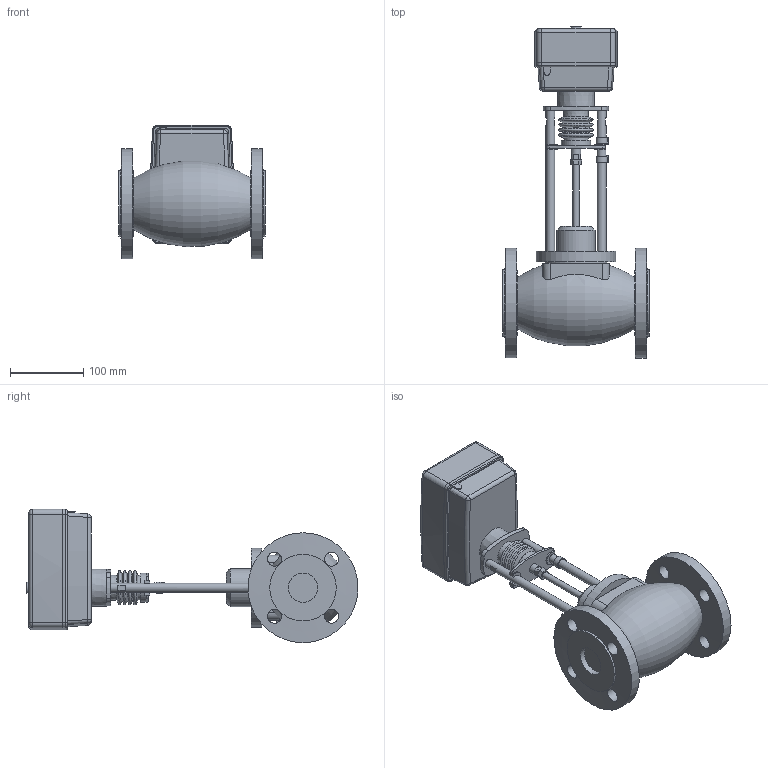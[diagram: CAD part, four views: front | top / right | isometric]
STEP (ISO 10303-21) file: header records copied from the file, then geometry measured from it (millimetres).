
FILE_DESCRIPTION(/* description */ ('Unknown'),/* implementation_level */ '2;1');
FILE_NAME(/* name */ 'Клапан TRV-P-040-101',/* time_stamp */ '2021-12-06T17:10:40+03:00',/* author */ ('Unknown'),/* organization */ ('Unknown'),/* preprocessor_version */ 'ST-DEVELOPER v16.7',/* originating_system */ 'DEX',/* authorisation */ $);
FILE_SCHEMA (('AUTOMOTIVE_DESIGN {1 0 10303 214 3 1 1}'));
Length unit declared in the file: millimetre
Products named in the file (1): 抔黽鳧 TRV-P-040-101
Bounding box: 200 x 452.9 x 181.96 mm (x, y, z)
Volume: 3763143.9 mm3; surface area: 275688.8 mm2
Topology: 1 solids, 1 shells, 299 faces, 761 edges, 483 vertices
Faces by surface type: plane 153, cylinder 78, torus 32, cone 26, bspline 6, sphere 4
Full cylindrical faces by diameter (mm): 8.644 x1, 12.002 x4, 13 x1, 15 x1, 19 x8, 33.4 x1, 33.972 x1, 39.9 x2, 40 x1, 52 x1, 84.943 x1, 90.788 x2, 108 x1, 150 x2
Entity records: 11059 total; most frequent: CARTESIAN_POINT 2002, DIRECTION 1476, ORIENTED_EDGE 1354, EDGE_CURVE 677, AXIS2_PLACEMENT_3D 573, VERTEX_POINT 454, EDGE_LOOP 397, FACE_BOUND 397
